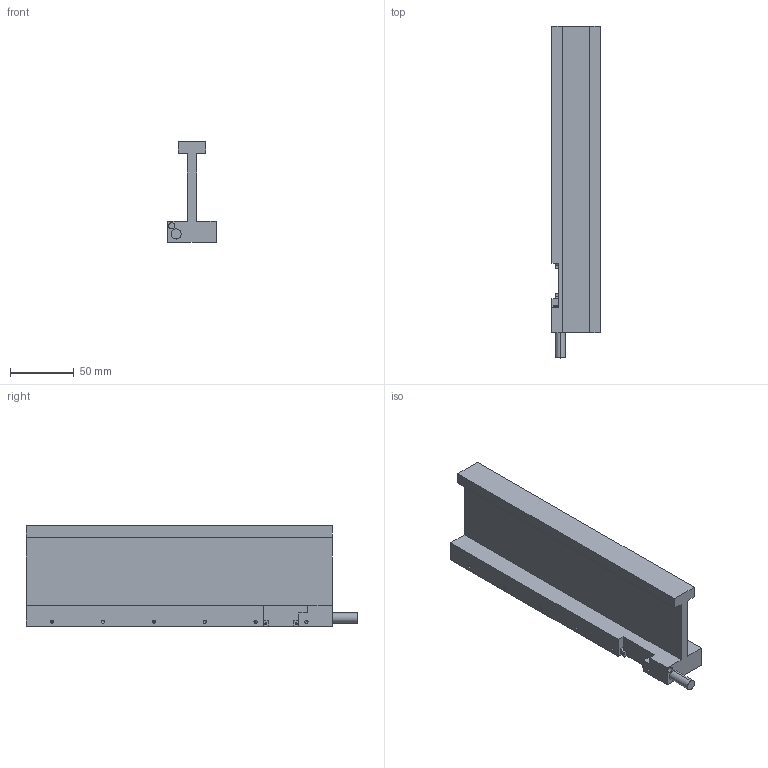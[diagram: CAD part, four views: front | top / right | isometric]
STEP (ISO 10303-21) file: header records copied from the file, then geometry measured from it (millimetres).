
FILE_DESCRIPTION (( 'STEP AP214' ), '1' );
FILE_NAME ('JKA44.STEP', '2025-09-05T08:44:14', ( '' ), ( '' ), 'SwSTEP 2.0', 'SolidWorks 2016', '' );
FILE_SCHEMA (( 'AUTOMOTIVE_DESIGN' ));
Length unit declared in the file: millimetre
Products named in the file (1): JKA44
Bounding box: 38 x 261 x 79 mm (x, y, z)
Volume: 288045.9 mm3; surface area: 68384 mm2
Topology: 1 solids, 1 shells, 152 faces, 389 edges, 210 vertices
Faces by surface type: cylinder 66, cone 58, plane 28
Entity records: 4852 total; most frequent: DIRECTION 766, CARTESIAN_POINT 724, ORIENTED_EDGE 662, EDGE_CURVE 331, AXIS2_PLACEMENT_3D 284, VERTEX_POINT 210, VECTOR 198, LINE 198
